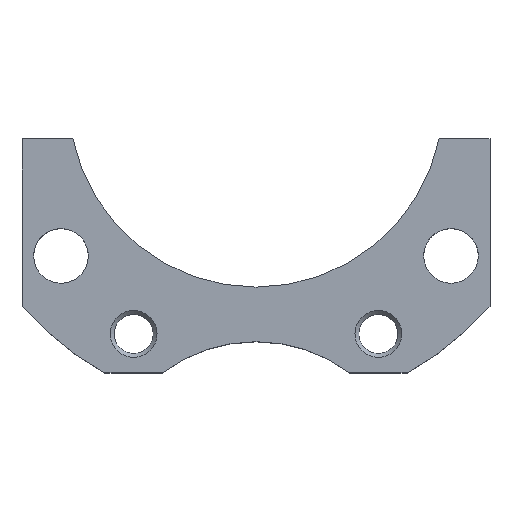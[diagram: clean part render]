
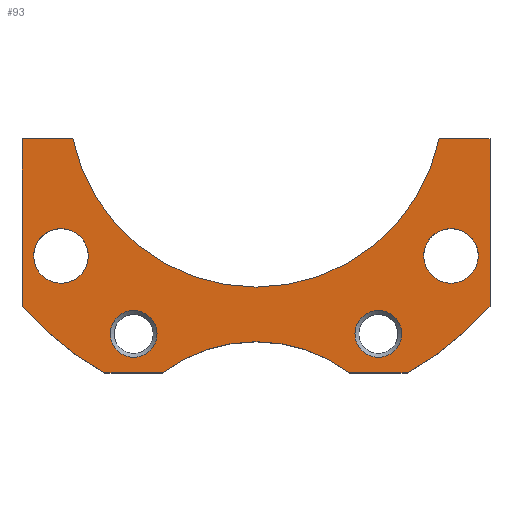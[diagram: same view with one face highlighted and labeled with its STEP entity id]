
A CAD part, top view. The second image highlights one B-rep face of the part: STEP entity #93.
In plain terms, the highlighted planar face has unit normal (0, 0, 1).
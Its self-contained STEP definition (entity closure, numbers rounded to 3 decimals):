
#47=FACE_BOUND('',#133,.T.);
#48=FACE_BOUND('',#134,.T.);
#49=FACE_BOUND('',#135,.T.);
#50=FACE_BOUND('',#136,.T.);
#51=FACE_BOUND('',#137,.T.);
#81=PLANE('',#431);
#93=ADVANCED_FACE('',(#47,#48,#49,#50,#51),#81,.F.);
#133=EDGE_LOOP('',(#244));
#134=EDGE_LOOP('',(#245));
#135=EDGE_LOOP('',(#246));
#136=EDGE_LOOP('',(#247));
#137=EDGE_LOOP('',(#248,#249,#250,#251,#252,#253,#254,#255,#256,#257));
#162=LINE('',#579,#184);
#164=LINE('',#584,#186);
#169=LINE('',#603,#191);
#172=LINE('',#613,#194);
#176=LINE('',#625,#198);
#179=LINE('',#634,#201);
#184=VECTOR('',#465,1.);
#186=VECTOR('',#469,1.);
#191=VECTOR('',#482,1.);
#194=VECTOR('',#487,1.);
#198=VECTOR('',#499,1.);
#201=VECTOR('',#510,1.);
#244=ORIENTED_EDGE('',*,*,#368,.T.);
#245=ORIENTED_EDGE('',*,*,#369,.T.);
#246=ORIENTED_EDGE('',*,*,#370,.T.);
#247=ORIENTED_EDGE('',*,*,#371,.T.);
#248=ORIENTED_EDGE('',*,*,#338,.F.);
#249=ORIENTED_EDGE('',*,*,#342,.F.);
#250=ORIENTED_EDGE('',*,*,#344,.F.);
#251=ORIENTED_EDGE('',*,*,#348,.F.);
#252=ORIENTED_EDGE('',*,*,#352,.F.);
#253=ORIENTED_EDGE('',*,*,#356,.F.);
#254=ORIENTED_EDGE('',*,*,#359,.F.);
#255=ORIENTED_EDGE('',*,*,#362,.F.);
#256=ORIENTED_EDGE('',*,*,#365,.F.);
#257=ORIENTED_EDGE('',*,*,#367,.F.);
#302=VERTEX_POINT('',#570);
#303=VERTEX_POINT('',#572);
#305=VERTEX_POINT('',#578);
#307=VERTEX_POINT('',#583);
#310=VERTEX_POINT('',#594);
#313=VERTEX_POINT('',#602);
#315=VERTEX_POINT('',#612);
#317=VERTEX_POINT('',#618);
#319=VERTEX_POINT('',#624);
#321=VERTEX_POINT('',#630);
#322=VERTEX_POINT('',#637);
#323=VERTEX_POINT('',#639);
#324=VERTEX_POINT('',#641);
#325=VERTEX_POINT('',#643);
#338=EDGE_CURVE('',#302,#303,#386,.T.);
#342=EDGE_CURVE('',#305,#302,#162,.T.);
#344=EDGE_CURVE('',#307,#305,#164,.T.);
#348=EDGE_CURVE('',#310,#307,#387,.T.);
#352=EDGE_CURVE('',#313,#310,#169,.T.);
#356=EDGE_CURVE('',#315,#313,#172,.T.);
#359=EDGE_CURVE('',#317,#315,#390,.T.);
#362=EDGE_CURVE('',#319,#317,#176,.T.);
#365=EDGE_CURVE('',#321,#319,#392,.T.);
#367=EDGE_CURVE('',#303,#321,#179,.T.);
#368=EDGE_CURVE('',#322,#322,#393,.T.);
#369=EDGE_CURVE('',#323,#323,#394,.T.);
#370=EDGE_CURVE('',#324,#324,#395,.T.);
#371=EDGE_CURVE('',#325,#325,#396,.T.);
#386=CIRCLE('',#410,40.);
#387=CIRCLE('',#414,24.);
#390=CIRCLE('',#420,40.);
#392=CIRCLE('',#424,20.);
#393=CIRCLE('',#427,3.5);
#394=CIRCLE('',#428,3.5);
#395=CIRCLE('',#429,3.);
#396=CIRCLE('',#430,3.);
#410=AXIS2_PLACEMENT_3D('',#571,#458,#459);
#414=AXIS2_PLACEMENT_3D('',#595,#474,#475);
#420=AXIS2_PLACEMENT_3D('',#619,#493,#494);
#424=AXIS2_PLACEMENT_3D('',#631,#505,#506);
#427=AXIS2_PLACEMENT_3D('',#636,#513,#514);
#428=AXIS2_PLACEMENT_3D('',#638,#515,#516);
#429=AXIS2_PLACEMENT_3D('',#640,#517,#518);
#430=AXIS2_PLACEMENT_3D('',#642,#519,#520);
#431=AXIS2_PLACEMENT_3D('',#644,#521,#522);
#458=DIRECTION('',(0.,0.,-1.));
#459=DIRECTION('',(0.,1.,0.));
#465=DIRECTION('',(0.,-1.,0.));
#469=DIRECTION('',(1.,0.,0.));
#474=DIRECTION('',(0.,0.,1.));
#475=DIRECTION('',(0.,1.,0.));
#482=DIRECTION('',(1.,0.,0.));
#487=DIRECTION('',(0.,1.,0.));
#493=DIRECTION('',(0.,0.,-1.));
#494=DIRECTION('',(0.,1.,0.));
#499=DIRECTION('',(-1.,0.,0.));
#505=DIRECTION('',(0.,0.,1.));
#506=DIRECTION('',(0.,1.,0.));
#510=DIRECTION('',(-1.,0.,0.));
#513=DIRECTION('',(0.,0.,-1.));
#514=DIRECTION('',(-1.,0.,0.));
#515=DIRECTION('',(0.,0.,-1.));
#516=DIRECTION('',(-1.,0.,0.));
#517=DIRECTION('',(0.,0.,-1.));
#518=DIRECTION('',(-1.,0.,0.));
#519=DIRECTION('',(0.,0.,-1.));
#520=DIRECTION('',(-1.,0.,0.));
#521=DIRECTION('',(0.,0.,-1.));
#522=DIRECTION('',(-1.,0.,0.));
#570=CARTESIAN_POINT('',(30.,-354.458,71.));
#571=CARTESIAN_POINT('',(0.,-328.,71.));
#572=CARTESIAN_POINT('',(19.365,-363.,71.));
#578=CARTESIAN_POINT('',(30.,-333.,71.));
#579=CARTESIAN_POINT('',(30.,-354.458,71.));
#583=CARTESIAN_POINT('',(23.473,-333.,71.));
#584=CARTESIAN_POINT('',(30.,-333.,71.));
#594=CARTESIAN_POINT('',(-23.473,-333.,71.));
#595=CARTESIAN_POINT('',(0.,-328.,71.));
#602=CARTESIAN_POINT('',(-30.,-333.,71.));
#603=CARTESIAN_POINT('',(-23.473,-333.,71.));
#612=CARTESIAN_POINT('',(-30.,-354.458,71.));
#613=CARTESIAN_POINT('',(-30.,-333.,71.));
#618=CARTESIAN_POINT('',(-19.365,-363.,71.));
#619=CARTESIAN_POINT('',(0.,-328.,71.));
#624=CARTESIAN_POINT('',(-12.,-363.,71.));
#625=CARTESIAN_POINT('',(-19.365,-363.,71.));
#630=CARTESIAN_POINT('',(12.,-363.,71.));
#631=CARTESIAN_POINT('',(0.,-379.,71.));
#634=CARTESIAN_POINT('',(12.,-363.,71.));
#636=CARTESIAN_POINT('',(-25.,-348.,71.));
#637=CARTESIAN_POINT('',(-28.5,-348.,71.));
#638=CARTESIAN_POINT('',(25.,-348.,71.));
#639=CARTESIAN_POINT('',(21.5,-348.,71.));
#640=CARTESIAN_POINT('',(-15.682,-358.,71.));
#641=CARTESIAN_POINT('',(-18.682,-358.,71.));
#642=CARTESIAN_POINT('',(15.682,-358.,71.));
#643=CARTESIAN_POINT('',(12.682,-358.,71.));
#644=CARTESIAN_POINT('',(0.,-328.,71.));
